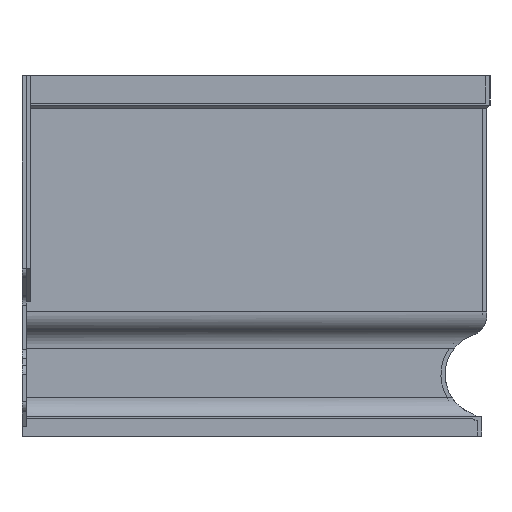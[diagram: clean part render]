
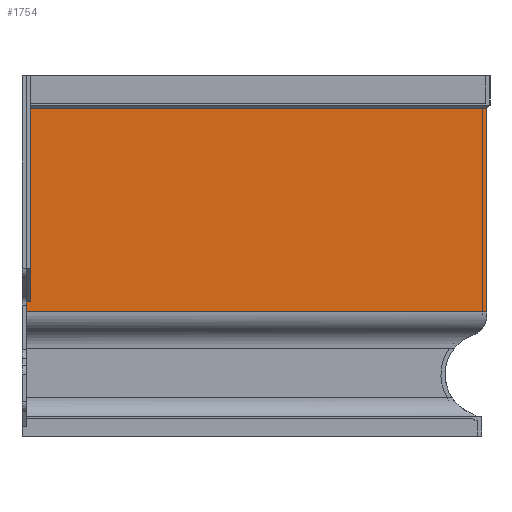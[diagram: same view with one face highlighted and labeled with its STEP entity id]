
A CAD part, left-side view. The second image highlights one B-rep face of the part: STEP entity #1754.
In plain terms, the highlighted planar face has unit normal (-1, 0, 0).
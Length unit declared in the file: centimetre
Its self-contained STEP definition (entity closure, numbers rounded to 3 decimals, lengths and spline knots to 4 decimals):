
#138=FACE_OUTER_BOUND('',#236,.T.);
#236=EDGE_LOOP('',(#1463,#1464,#1465,#1466,#1467,#1468));
#374=LINE('',#2762,#560);
#376=LINE('',#2769,#562);
#394=LINE('',#2822,#580);
#397=LINE('',#2867,#583);
#402=LINE('',#2895,#588);
#414=LINE('',#2985,#600);
#560=VECTOR('',#2146,18.5447);
#562=VECTOR('',#2152,0.4);
#580=VECTOR('',#2198,0.9553);
#583=VECTOR('',#2209,44.1);
#588=VECTOR('',#2222,19.5);
#600=VECTOR('',#2260,43.7);
#790=VERTEX_POINT('',#2755);
#792=VERTEX_POINT('',#2760);
#794=VERTEX_POINT('',#2766);
#816=VERTEX_POINT('',#2820);
#822=VERTEX_POINT('',#2865);
#825=VERTEX_POINT('',#2893);
#997=EDGE_CURVE('',#790,#792,#374,.T.);
#1000=EDGE_CURVE('',#792,#794,#376,.T.);
#1027=EDGE_CURVE('',#816,#794,#394,.T.);
#1035=EDGE_CURVE('',#822,#816,#397,.T.);
#1042=EDGE_CURVE('',#822,#825,#402,.T.);
#1064=EDGE_CURVE('',#825,#790,#414,.T.);
#1463=ORIENTED_EDGE('',*,*,#1000,.T.);
#1464=ORIENTED_EDGE('',*,*,#1027,.F.);
#1465=ORIENTED_EDGE('',*,*,#1035,.F.);
#1466=ORIENTED_EDGE('',*,*,#1042,.T.);
#1467=ORIENTED_EDGE('',*,*,#1064,.T.);
#1468=ORIENTED_EDGE('',*,*,#997,.T.);
#1676=PLANE('',#1886);
#1754=ADVANCED_FACE('',(#138),#1676,.F.);
#1886=AXIS2_PLACEMENT_3D('',#2994,#2271,#2272);
#2146=DIRECTION('',(0.,0.,-1.));
#2152=DIRECTION('',(0.,1.,0.));
#2198=DIRECTION('',(0.,0.,1.));
#2209=DIRECTION('',(0.,1.,0.));
#2222=DIRECTION('',(0.,0.,1.));
#2260=DIRECTION('',(0.,1.,0.));
#2271=DIRECTION('center_axis',(1.,0.,0.));
#2272=DIRECTION('ref_axis',(0.,0.,-1.));
#2755=CARTESIAN_POINT('',(-43.2,-0.8,31.4));
#2760=CARTESIAN_POINT('',(-43.2,-0.8,12.8553));
#2762=CARTESIAN_POINT('',(-43.2,-0.8,20.4902));
#2766=CARTESIAN_POINT('',(-43.2,-0.4,12.8553));
#2769=CARTESIAN_POINT('',(-43.2,-11.2308,12.8553));
#2820=CARTESIAN_POINT('',(-43.2,-0.4,11.9));
#2822=CARTESIAN_POINT('',(-43.2,-0.4,17.152));
#2865=CARTESIAN_POINT('',(-43.2,-44.5,11.9));
#2867=CARTESIAN_POINT('',(-43.2,-33.2808,11.9));
#2893=CARTESIAN_POINT('',(-43.2,-44.5,31.4));
#2895=CARTESIAN_POINT('',(-43.2,-44.5,31.4));
#2985=CARTESIAN_POINT('',(-43.2,0.,31.4));
#2994=CARTESIAN_POINT('Origin',(-43.2,-22.0617,16.709));
